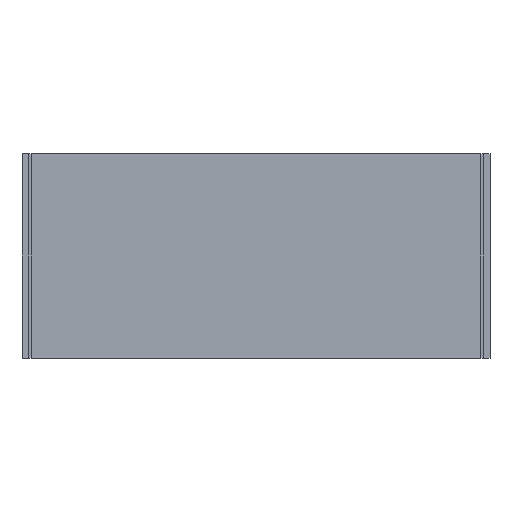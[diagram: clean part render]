
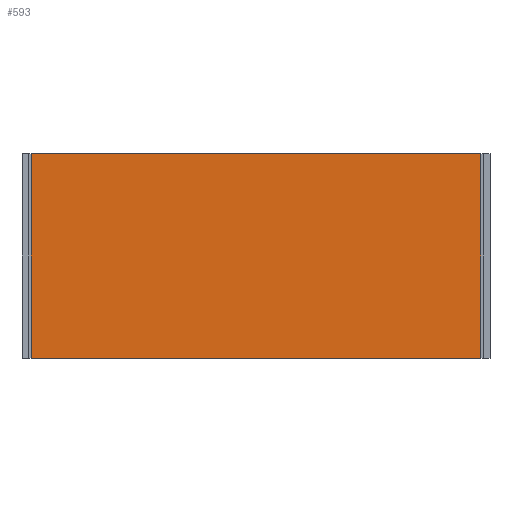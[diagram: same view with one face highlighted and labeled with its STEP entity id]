
A CAD part, front view. The second image highlights one B-rep face of the part: STEP entity #593.
In plain terms, the highlighted planar face has unit normal (0, -1, 0).
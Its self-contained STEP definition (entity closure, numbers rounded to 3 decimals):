
#13 = VERTEX_POINT ( 'NONE', #499 ) ;
#21 = LINE ( 'NONE', #651, #686 ) ;
#45 = ORIENTED_EDGE ( 'NONE', *, *, #1009, .T. ) ;
#50 = PLANE ( 'NONE',  #830 ) ;
#64 = CARTESIAN_POINT ( 'NONE',  ( -203.2, -68.25, -92.5 ) ) ;
#151 = DIRECTION ( 'NONE',  ( 1., 0., 0. ) ) ;
#170 = CARTESIAN_POINT ( 'NONE',  ( 203.2, -68.25, 92.5 ) ) ;
#246 = ORIENTED_EDGE ( 'NONE', *, *, #1483, .F. ) ;
#283 = CARTESIAN_POINT ( 'NONE',  ( -203.2, -68.25, 92.5 ) ) ;
#401 = DIRECTION ( 'NONE',  ( -1., 0., 0. ) ) ;
#444 = EDGE_CURVE ( 'NONE', #1311, #733, #540, .T. ) ;
#466 = ORIENTED_EDGE ( 'NONE', *, *, #444, .F. ) ;
#499 = CARTESIAN_POINT ( 'NONE',  ( -203.2, -68.25, -92.5 ) ) ;
#540 = LINE ( 'NONE', #1460, #760 ) ;
#593 = ADVANCED_FACE ( 'NONE', ( #842 ), #50, .F. ) ;
#635 = VECTOR ( 'NONE', #883, 1000. ) ;
#651 = CARTESIAN_POINT ( 'NONE',  ( -203.2, -68.25, 92.5 ) ) ;
#686 = VECTOR ( 'NONE', #1256, 1000. ) ;
#733 = VERTEX_POINT ( 'NONE', #1413 ) ;
#760 = VECTOR ( 'NONE', #151, 1000. ) ;
#830 = AXIS2_PLACEMENT_3D ( 'NONE', #283, #885, #401 ) ;
#842 = FACE_OUTER_BOUND ( 'NONE', #1347, .T. ) ;
#883 = DIRECTION ( 'NONE',  ( 0., 0., -1. ) ) ;
#885 = DIRECTION ( 'NONE',  ( 0., 1., 0. ) ) ;
#967 = LINE ( 'NONE', #170, #635 ) ;
#1009 = EDGE_CURVE ( 'NONE', #1311, #13, #21, .T. ) ;
#1110 = VECTOR ( 'NONE', #1498, 1000. ) ;
#1212 = CARTESIAN_POINT ( 'NONE',  ( 203.2, -68.25, -92.5 ) ) ;
#1240 = VERTEX_POINT ( 'NONE', #1212 ) ;
#1256 = DIRECTION ( 'NONE',  ( 0., 0., -1. ) ) ;
#1289 = EDGE_CURVE ( 'NONE', #13, #1240, #1443, .T. ) ;
#1311 = VERTEX_POINT ( 'NONE', #1378 ) ;
#1347 = EDGE_LOOP ( 'NONE', ( #1524, #246, #466, #45 ) ) ;
#1378 = CARTESIAN_POINT ( 'NONE',  ( -203.2, -68.25, 92.5 ) ) ;
#1413 = CARTESIAN_POINT ( 'NONE',  ( 203.2, -68.25, 92.5 ) ) ;
#1443 = LINE ( 'NONE', #64, #1110 ) ;
#1460 = CARTESIAN_POINT ( 'NONE',  ( -203.2, -68.25, 92.5 ) ) ;
#1483 = EDGE_CURVE ( 'NONE', #733, #1240, #967, .T. ) ;
#1498 = DIRECTION ( 'NONE',  ( 1., 0., 0. ) ) ;
#1524 = ORIENTED_EDGE ( 'NONE', *, *, #1289, .T. ) ;
